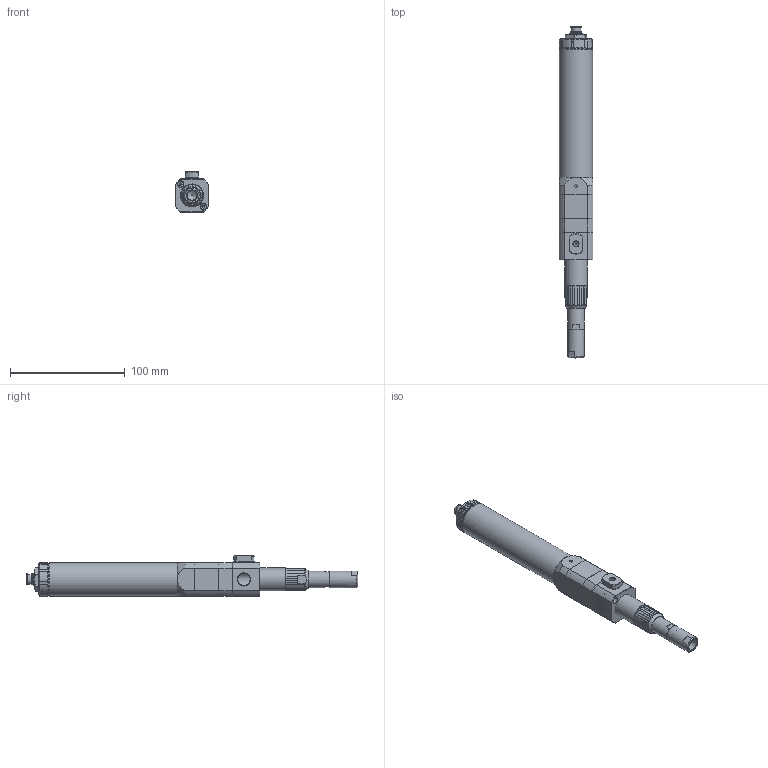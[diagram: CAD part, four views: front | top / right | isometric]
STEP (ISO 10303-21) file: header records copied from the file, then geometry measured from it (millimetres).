
FILE_DESCRIPTION (( 'STEP AP203' ), '1' );
FILE_NAME ('PCP-150-18.STEP', '2024-10-11T11:35:27', ( '' ), ( '' ), 'SwSTEP 2.0', 'SolidWorks 2024', '' );
FILE_SCHEMA (( 'CONFIG_CONTROL_DESIGN' ));
Products named in the file (1): PCP-150-18
Bounding box: 29 x 289.5 x 35 mm (x, y, z)
Volume: 69297.5 mm3; surface area: 62905.7 mm2
Topology: 20 solids, 20 shells, 699 faces, 1717 edges, 1099 vertices
Faces by surface type: plane 328, cylinder 206, cone 131, bspline 33, torus 1
Full cylindrical faces by diameter (mm): 0.6 x1, 1 x5, 2 x1, 2.5 x9, 3 x6, 3.5 x14, 4 x1, 4.2 x1, 4.8 x1, 5.2 x1, 5.5 x4, 5.8 x6, 6 x4, 6.6 x2, 6.8 x1, 8 x1, 8.178 x1, 8.5 x1, 9 x3, 9.6 x2, 10 x2, 10.8 x2, 11.2 x1, 11.5 x1, 11.6 x2, 11.9 x1, 12.5 x2, 12.6 x2, 13 x4, 14 x1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
Entity records: 34765 total; most frequent: CARTESIAN_POINT 19801, DIRECTION 3003, ORIENTED_EDGE 2814, EDGE_CURVE 1407, AXIS2_PLACEMENT_3D 1229, EDGE_LOOP 1030, VERTEX_POINT 1015, FACE_OUTER_BOUND 838
